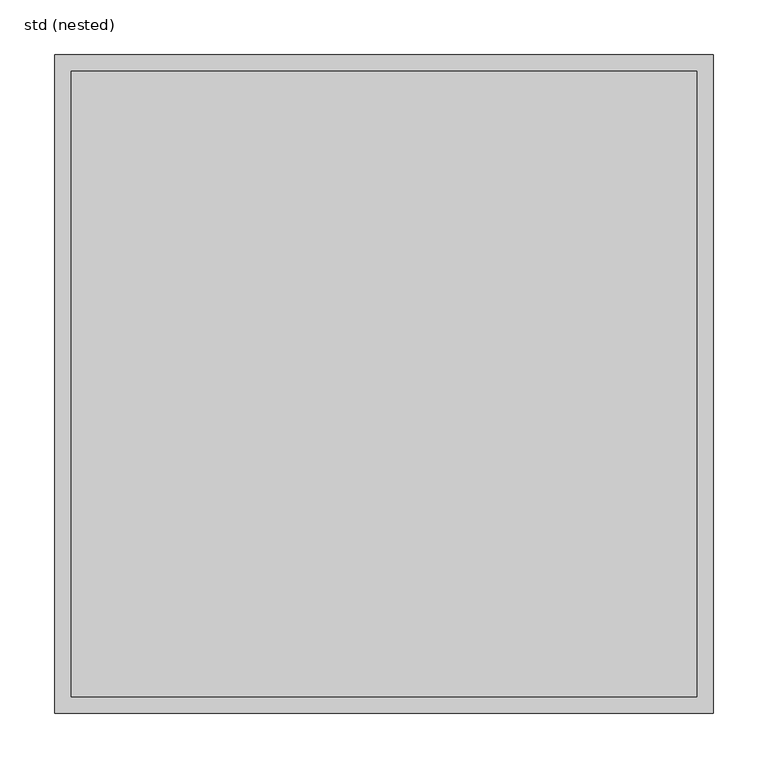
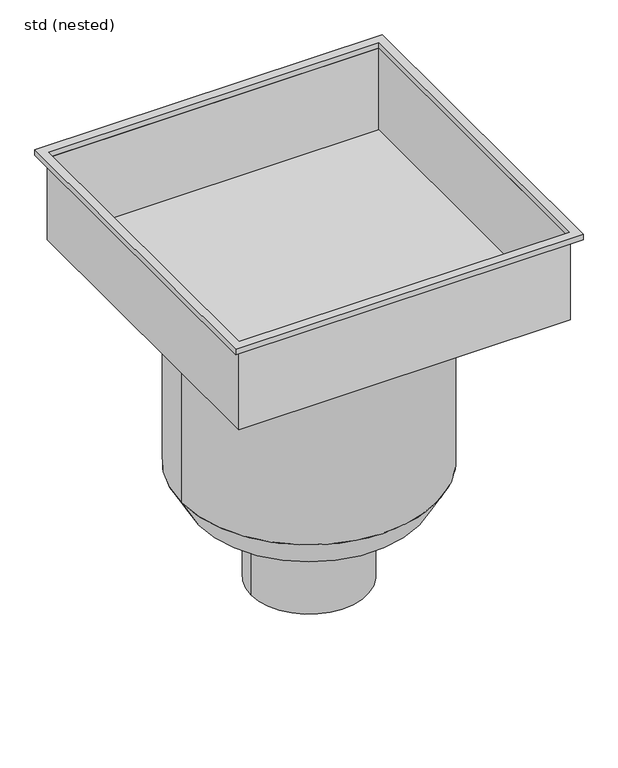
"""IFC4 building model written with IfcOpenShell, lengths in millimetres: sanitary terminal geometry, ZZZ_do not use_PF_ST_UN_high capacity gully_ACO : std (nested)."""

from ifc_helpers import new_model, si_unit, point, frame, origin, origin_2d, place, context, project, spatial, polyline, circle_curve, trimmed, segment, composite_curve, outline, extrude, faceted_brep, source, transform, mapped, element, save
from ifc_brep_helpers import plane_surface, revolved_surface, advanced_brep


def std_nested_8b3f8c66(model_context):
    return source(origin(), model_context, "Body", "SolidModel", [
        faceted_brep([(286.25, 286.25, -160.0), (286.25, -286.25, -160.0), (-286.25, -286.25, -160.0), (-286.25, 286.25, -160.0), (285.0, -285.0, -158.75), (285.0, 285.0, -158.75), (-285.0, 285.0, -158.75), (-285.0, -285.0, -158.75), (-286.25, 286.25, -10.0), (286.25, 286.25, -10.0), (-286.25, -286.25, -10.0), (286.25, -286.25, -10.0), (285.0, 285.0, -10.0), (285.0, -285.0, -10.0), (-285.0, -285.0, -10.0), (-285.0, 285.0, -10.0)], [[[0, 1, 2, 3]], [[4, 5, 6, 7]], [[0, 3, 8, 9]], [[8, 3, 2, 10]], [[10, 2, 1, 11]], [[11, 1, 0, 9]], [[9, 8, 10, 11], [12, 13, 14, 15]], [[13, 12, 5, 4]], [[14, 13, 4, 7]], [[15, 14, 7, 6]], [[12, 15, 6, 5]]]),
        extrude(outline(composite_curve([segment(trimmed(circle_curve(origin_2d(), 100.0), [point((-100.0, 0.0))], [point((100.0, 0.0))], False, "CARTESIAN"), True, "CONTINUOUS"), segment(trimmed(circle_curve(origin_2d(), 100.0), [point((100.0, 0.0))], [point((-100.0, 0.0))], False, "CARTESIAN"), True, "CONTINUOUS")], self_intersect=False)), frame((0.0, 0.0, -700.6), z_axis=(0.0, 0.0, 1.0), x_axis=(1.0, 0.0, 0.0)), (0.0, 0.0, 1.0), 158.6),
        advanced_brep(
        [(-190.0, 0.0, -542.0), (190.0, 0.0, -542.0), (-220.0, 0.0, -490.0384758), (220.0, 0.0, -490.0384758)],
        [
            (0, 1, circle_curve(frame((0.0, 0.0, -542.0), z_axis=(0.0, 0.0, -1.0), x_axis=(-1.0, 0.0, 0.0)), 190.0)),
            (1, 0, circle_curve(frame((0.0, 0.0, -542.0), z_axis=(0.0, 0.0, -1.0), x_axis=(1.0, 0.0, 0.0)), 190.0)),
            (2, 3, circle_curve(frame((0.0, 0.0, -490.0384758), z_axis=(0.0, 0.0, 1.0), x_axis=(1.0, 0.0, 0.0)), 220.0)),
            (3, 2, circle_curve(frame((0.0, 0.0, -490.0384758), z_axis=(0.0, 0.0, 1.0), x_axis=(-1.0, 0.0, 0.0)), 220.0)),
            (2, 0),
            (1, 3),
        ],
        [
            plane_surface(frame((0.0, 0.0, -542.0), z_axis=(0.0, 0.0, -1.0), x_axis=(0.0, -1.0, 0.0))),
            plane_surface(frame((0.0, 0.0, -490.0384758), z_axis=(0.0, 0.0, 1.0), x_axis=(0.0, -1.0, 0.0))),
            revolved_surface(polyline([(190.0000000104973, 0.0, -542.0), (220.0, 0.0, -490.0384758)]), (0.0, 0.0, -871.0896534), (0.0, 0.0, 1.0)),
            revolved_surface(polyline([(-190.0000000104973, 0.0, -542.0), (-220.0, 0.0, -490.0384758)]), (0.0, 0.0, -871.0896534), (0.0, 0.0, 1.0)),
        ],
        [
            (0, [[1, 2]]),
            (1, [[3, 4]]),
            (2, [[-3, 5, -2, 6]]),
            (3, [[-4, -6, -1, -5]]),
        ],
    ),
        extrude(outline(composite_curve([segment(trimmed(circle_curve(origin_2d(), 220.0), [point((-220.0, 0.0))], [point((220.0, 0.0))], False, "CARTESIAN"), True, "CONTINUOUS"), segment(trimmed(circle_curve(origin_2d(), 220.0), [point((220.0, 0.0))], [point((-220.0, 0.0))], False, "CARTESIAN"), True, "CONTINUOUS")], self_intersect=False)), frame((0.0, 0.0, -490.0384758), z_axis=(0.0, 0.0, 1.0), x_axis=(1.0, 0.0, 0.0)), (0.0, 0.0, 1.0), 330.0384758),
        extrude(outline(polyline([(300.0, 300.0), (300.0, -300.0), (-300.0, -300.0), (-300.0, 300.0), (300.0, 300.0)]), holes=[polyline([(285.0, 285.0), (-285.0, 285.0), (-285.0, -285.0), (285.0, -285.0), (285.0, 285.0)])]), frame((0.0, 0.0, -10.0), z_axis=(0.0, 0.0, 1.0), x_axis=(1.0, 0.0, 0.0)), (0.0, 0.0, 1.0), 10.0),
    ])


if __name__ == "__main__":
    model = new_model("IFC4")
    model_context = context("Model", 3, world=origin())
    ifc_project = project(units=[si_unit("LENGTHUNIT", "METRE", prefix="MILLI")], contexts=[model_context])
    site = spatial("IfcSite", under=ifc_project)
    building = spatial("IfcBuilding", under=site)
    placement = place(None, origin())
    std_nested_shape = std_nested_8b3f8c66(model_context)
    element("IfcSanitaryTerminal", 1, ObjectType="ZZZ_do not use_PF_ST_UN_high capacity gully_ACO : std (nested)", at=placement, inside=building, context=model_context, shape_type="MappedRepresentation", body=[
        mapped(std_nested_shape, transform((0.0, 0.0, 0.0), x_axis=(1.0, 0.0, 0.0), y_axis=(0.0, 1.0, 0.0), z_axis=(0.0, 0.0, 1.0))),
    ])
    save(model, "model.ifc")
